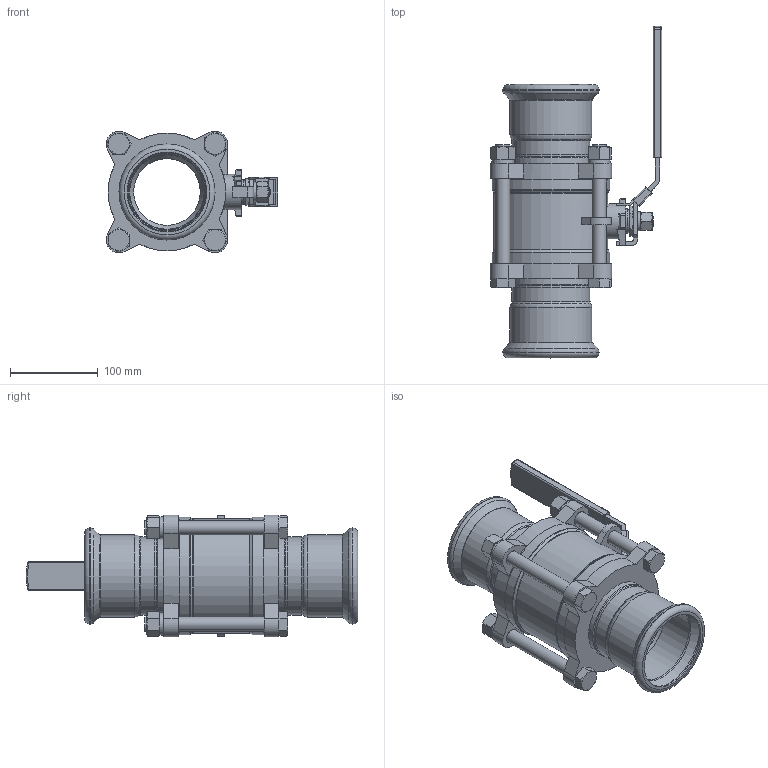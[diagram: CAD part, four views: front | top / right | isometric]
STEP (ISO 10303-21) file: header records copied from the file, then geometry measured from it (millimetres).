
FILE_DESCRIPTION(('STEP AP214'),'1');
FILE_NAME('3.stp','2025-03-26T07:38:10',(' '),(' '),'Spatial InterOp 3D',' ',' ');
FILE_SCHEMA(('AUTOMOTIVE_DESIGN { 1 0 10303 214 1 1 1 1 }'));
Length unit declared in the file: millimetre
Products named in the file (21): 3PC卡压球阀3; 填料; 阀杆; 小片; 球体; 半截接头; 阀体; 阀盖; 垫圈 ： 单圈弹簧 - M16.0 x 4.1; 螺母 ： 标准 - M16.0 x 14.8; 螺栓 ： 六角头 - M16.0 x 153.0; 阀座; 垫圈 ： 单圈弹簧 - M14.0 x 3.6; 螺母 ： 标准 - M14.0 x 12.8; 锁块; 手柄套; 手柄; 压紧螺母
Assembly tree (29 placements, depth 2):
  3PC卡压球阀3
    填料
    阀杆
    小片
    球体
    半截接头
    阀体
    阀盖
    半截接头
    阀盖
    垫圈 ： 单圈弹簧 - M16.0 x 4.1  x4
    螺母 ： 标准 - M16.0 x 14.8  x4
    螺栓 ： 六角头 - M16.0 x 153.0  x4
    阀座
    阀座
    垫圈 ： 单圈弹簧 - M14.0 x 3.6
    螺母 ： 标准 - M14.0 x 12.8
    锁块
    手柄套
    手柄
    压紧螺母
Bounding box: 195.65 x 378.3 x 138.58 mm (x, y, z)
Volume: 1526388.5 mm3; surface area: 491922.4 mm2
Topology: 29 solids, 29 shells, 533 faces, 1202 edges, 740 vertices
Faces by surface type: plane 253, cone 122, cylinder 117, torus 25, bspline 10, sphere 6
Full cylindrical faces by diameter (mm): 7.5 x1, 14 x1, 16 x8, 16.5 x10, 20 x2, 20.2 x1, 20.6 x2, 25 x2, 26 x2, 26.3 x1, 26.4 x1, 28 x1, 40 x1, 76 x5, 84.9 x4, 88.9 x4, 89.5 x2, 91 x4, 93.5 x2, 109.5 x2, 117 x1, 118.5 x4, 125.5 x4, 130 x1, 134 x4
Entity records: 15158 total; most frequent: CARTESIAN_POINT 2758, DIRECTION 1893, ORIENTED_EDGE 1590, EDGE_CURVE 795, AXIS2_PLACEMENT_3D 768, EDGE_LOOP 583, VERTEX_POINT 564, FACE_OUTER_BOUND 488
